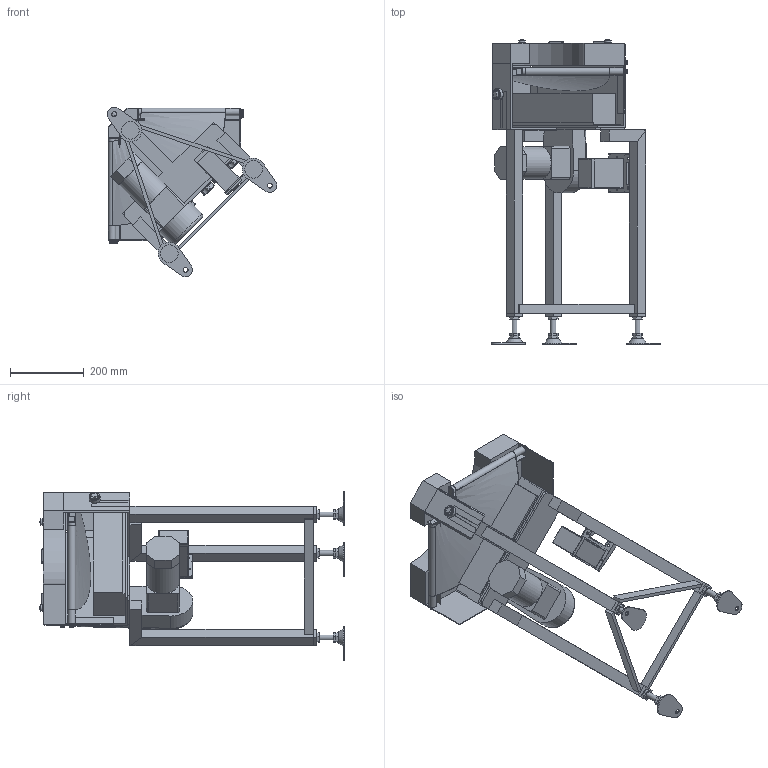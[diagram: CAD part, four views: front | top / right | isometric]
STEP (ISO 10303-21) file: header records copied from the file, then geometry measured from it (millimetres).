
FILE_DESCRIPTION (( 'STEP AP214' ), '1' );
FILE_NAME ('GBC90-UD150-L.STEP', '2022-12-05T23:59:29', ( '' ), ( '' ), 'SwSTEP 2.0', 'SolidWorks 2017', '' );
FILE_SCHEMA (( 'AUTOMOTIVE_DESIGN' ));
Length unit declared in the file: millimetre
Products named in the file (1): GBC90-UD150-L
Bounding box: 461.43 x 827.92 x 461.43 mm (x, y, z)
Volume: 13314709.9 mm3; surface area: 1847971.1 mm2
Topology: 54 solids, 54 shells, 903 faces, 2058 edges, 1319 vertices
Faces by surface type: plane 569, cylinder 185, cone 77, bspline 57, torus 8, sphere 7
Full cylindrical faces by diameter (mm): 4.2 x4, 4.5 x2, 5 x4, 6 x13, 6.4 x4, 7 x3, 8 x1, 9 x2, 10 x6, 12 x1, 12.2 x2, 12.5 x7, 13 x7, 15 x4, 16 x10, 18 x2, 18.4 x1, 20 x6, 21 x1, 22.2 x1, 25 x1, 30 x1, 89 x1
Entity records: 33107 total; most frequent: CARTESIAN_POINT 13233, ORIENTED_EDGE 3796, DIRECTION 3782, EDGE_CURVE 1898, AXIS2_PLACEMENT_3D 1307, VERTEX_POINT 1284, LINE 1168, VECTOR 1168
